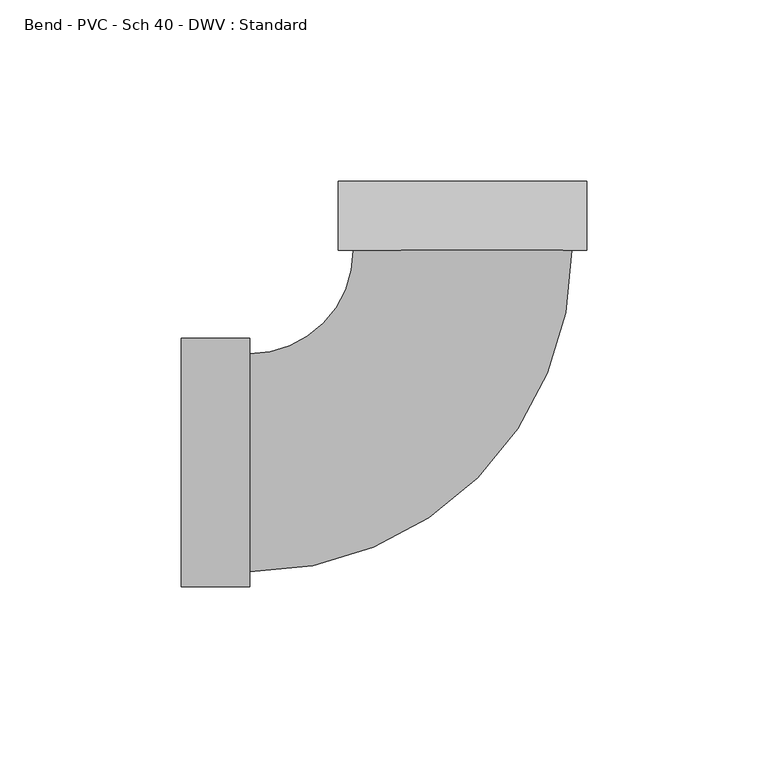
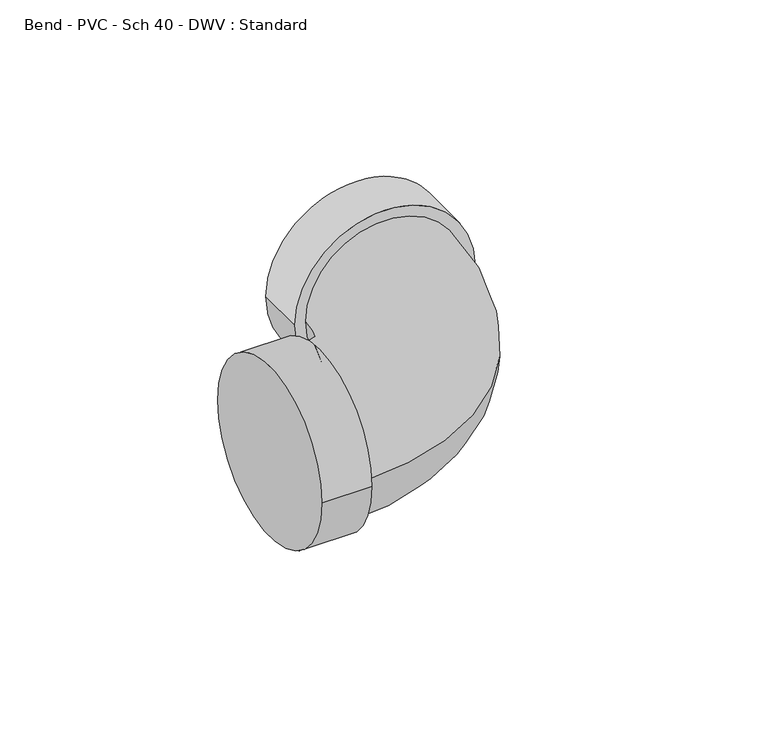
"""IFC4 building model written with IfcOpenShell, lengths in millimetres: pipe fitting geometry, Bend - PVC - Sch 40 - DWV : Standard."""

from ifc_helpers import new_model, si_unit, point, frame, origin, place, context, project, spatial, circle_curve, ellipse_curve, trimmed, source, transform, mapped, element, save
from ifc_brep_helpers import plane_surface, cylinder_surface, revolved_surface, advanced_brep


def bend_pvc_sch_40_dwv_standard_4755b29d(model_context):
    return source(origin(), model_context, "Body", "AdvancedBrep", [
        advanced_brep(
        [(-77.8002, -34.3154, 0.0), (-77.8002, 34.3154, 0.0), (-58.7502, -34.3154, 0.0), (-58.7502, 34.3154, 0.0), (-58.7502, -30.1625, 0.0), (-58.7502, 30.1625, 0.0), (-30.1643115, 58.74927, 0.0), (30.1606885, 58.75113, 0.0), (34.3135885, 58.751258, 0.0), (-34.3172115, 58.7491419, 0.0), (34.3130011, 77.801258, 0.0), (-34.3177988, 77.7991419, 0.0)],
        [
            (0, 1, circle_curve(frame((-77.8002, 0.0, 0.0), z_axis=(-1.0, 0.0, 0.0), x_axis=(0.0, 1.0, 0.0)), 34.3154)),
            (1, 0, circle_curve(frame((-77.8002, 0.0, 0.0), z_axis=(-1.0, 0.0, 0.0), x_axis=(0.0, 1.0, 0.0)), 34.3154)),
            (2, 3, circle_curve(frame((-58.7502, 0.0, 0.0), z_axis=(1.0, 0.0, 0.0), x_axis=(0.0, 1.0, 0.0)), 34.3154)),
            (3, 2, circle_curve(frame((-58.7502, 0.0, 0.0), z_axis=(1.0, 0.0, 0.0), x_axis=(0.0, 1.0, 0.0)), 34.3154)),
            (4, 5, circle_curve(frame((-58.7502, 0.0, 0.0), z_axis=(-1.0, 0.0, 0.0), x_axis=(0.0, 1.0, 0.0)), 30.1625)),
            (5, 4, circle_curve(frame((-58.7502, 0.0, 0.0), z_axis=(-1.0, 0.0, 0.0), x_axis=(0.0, 1.0, 0.0)), 30.1625)),
            (0, 2),
            (3, 1),
            (6, 5, circle_curve(frame((-58.7502, 58.7483885, 0.0), z_axis=(0.0, 0.0, -1.0), x_axis=(0.0, -1.0, 0.0)), 28.5858885)),
            (4, 7, circle_curve(frame((-58.7502, 58.7483885, 0.0), z_axis=(0.0, 0.0, 1.0), x_axis=(0.0, -1.0, 0.0)), 88.9108885)),
            (7, 6, circle_curve(frame((-0.0018115, 58.7502, 0.0), z_axis=(3.083367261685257e-05, -0.9999999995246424, 0.0), x_axis=(-0.9999999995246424, -3.083367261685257e-05, 0.0)), 30.1625)),
            (6, 7, circle_curve(frame((-0.0018115, 58.7502, 0.0), z_axis=(3.083367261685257e-05, -0.9999999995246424, 0.0), x_axis=(-0.9999999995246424, -3.083367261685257e-05, 0.0)), 30.1625)),
            (8, 9, circle_curve(frame((-0.0018115, 58.7502, 0.0), z_axis=(3.083367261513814e-05, -0.9999999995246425, 0.0), x_axis=(-0.9999999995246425, -3.083367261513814e-05, 0.0)), 34.3154)),
            (9, 8, circle_curve(frame((-0.0018115, 58.7502, 0.0), z_axis=(3.083367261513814e-05, -0.9999999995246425, 0.0), x_axis=(-0.9999999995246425, -3.083367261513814e-05, 0.0)), 34.3154)),
            (10, 11, circle_curve(frame((-0.0023989, 77.8002, 0.0), z_axis=(-3.083367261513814e-05, 0.9999999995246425, 0.0), x_axis=(-0.9999999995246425, -3.083367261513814e-05, 0.0)), 34.3154)),
            (11, 10, circle_curve(frame((-0.0023989, 77.8002, 0.0), z_axis=(-3.083367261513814e-05, 0.9999999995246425, 0.0), x_axis=(-0.9999999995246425, -3.083367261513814e-05, 0.0)), 34.3154)),
            (8, 10),
            (11, 9),
        ],
        [
            plane_surface(frame((-77.8002, 0.0, 0.0), z_axis=(-1.0, 0.0, 0.0), x_axis=(0.0, 0.0, 1.0))),
            plane_surface(frame((-58.7502, 0.0, 0.0), z_axis=(1.0, 0.0, 0.0), x_axis=(0.0, 0.0, 1.0))),
            cylinder_surface(frame((-77.8002, 0.0, 0.0), z_axis=(-1.0, 0.0, 0.0), x_axis=(0.0, 1.0, 0.0)), 34.3154),
            revolved_surface(trimmed(ellipse_curve(frame((-58.7502, 0.0, 0.0), z_axis=(-1.0, 0.0, 0.0), x_axis=(0.0, 1.0, 0.0)), 30.1625, 30.1625), [point((-58.7502, -30.1625, 0.0))], [point((-58.7502, 30.1625, 0.0))], True, "CARTESIAN"), (-58.7502, 58.7483885, 0.0), (0.0, 0.0, 1.0)),
            revolved_surface(trimmed(ellipse_curve(frame((-58.7502, 0.0, 0.0), z_axis=(-1.0, 0.0, 0.0), x_axis=(0.0, 1.0, 0.0)), 30.1625, 30.1625), [point((-58.7502, 30.1625, 0.0))], [point((-58.7502, -30.1625, 0.0))], True, "CARTESIAN"), (-58.7502, 58.7483885, 0.0), (0.0, 0.0, 1.0)),
            plane_surface(frame((-0.0018115, 58.7502, 0.0), z_axis=(3.083367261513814e-05, -0.9999999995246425, 0.0), x_axis=(0.0, 0.0, 1.0))),
            plane_surface(frame((-0.0023989, 77.8002, 0.0), z_axis=(-3.083367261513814e-05, 0.9999999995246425, 0.0), x_axis=(0.0, 0.0, 1.0))),
            cylinder_surface(frame((-0.0018115, 58.7502, 0.0), z_axis=(3.083367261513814e-05, -0.9999999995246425, 0.0), x_axis=(-0.9999999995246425, -3.083367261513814e-05, 0.0)), 34.3154),
        ],
        [
            (0, [[1, 2]]),
            (1, [[3, 4], [5, 6]]),
            (2, [[-1, 7, -4, 8]]),
            (2, [[-2, -8, -3, -7]]),
            (3, [[9, -5, 10, 11]]),
            (4, [[-9, 12, -10, -6]]),
            (5, [[13, 14], [-11, -12]]),
            (6, [[15, 16]]),
            (7, [[-13, 17, -16, 18]]),
            (7, [[-14, -18, -15, -17]]),
        ],
    ),
    ])


if __name__ == "__main__":
    model = new_model("IFC4")
    model_context = context("Model", 3, world=origin())
    ifc_project = project(units=[si_unit("LENGTHUNIT", "METRE", prefix="MILLI")], contexts=[model_context])
    site = spatial("IfcSite", under=ifc_project)
    building = spatial("IfcBuilding", under=site)
    placement = place(None, origin())
    bend_pvc_sch_40_dwv_standard_shape = bend_pvc_sch_40_dwv_standard_4755b29d(model_context)
    element("IfcPipeFitting", 1, ObjectType="Bend - PVC - Sch 40 - DWV : Standard", at=placement, inside=building, context=model_context, shape_type="MappedRepresentation", body=[
        mapped(bend_pvc_sch_40_dwv_standard_shape, transform((0.0, 0.0, 0.0), x_axis=(1.0, 0.0, 0.0), y_axis=(0.0, 1.0, 0.0), z_axis=(0.0, 0.0, 1.0))),
    ])
    save(model, "model.ifc")
